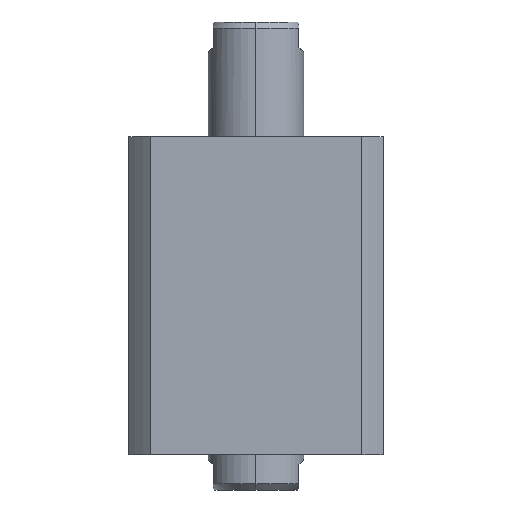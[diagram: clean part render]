
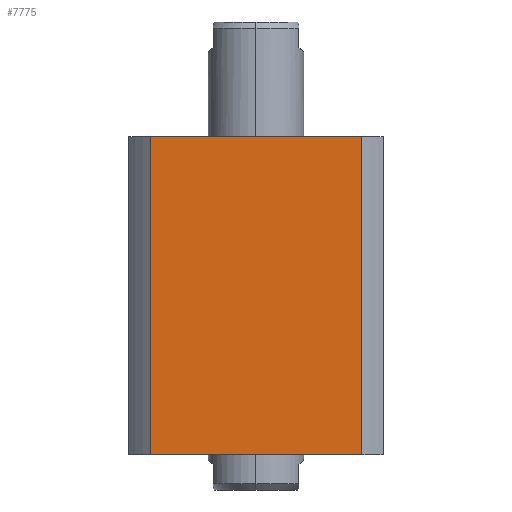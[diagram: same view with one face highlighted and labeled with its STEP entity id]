
A CAD part, left-side view. The second image highlights one B-rep face of the part: STEP entity #7775.
In plain terms, the highlighted planar face has unit normal (-1, 0, 0).
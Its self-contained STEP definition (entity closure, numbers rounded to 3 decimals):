
#808 = CARTESIAN_POINT ( 'NONE',  ( -40., 33.226, 50. ) ) ;
#1233 = VERTEX_POINT ( 'NONE', #2129 ) ;
#1383 = VECTOR ( 'NONE', #6850, 1000. ) ;
#1785 = VECTOR ( 'NONE', #7866, 1000. ) ;
#2044 = CARTESIAN_POINT ( 'NONE',  ( -40., -33.226, 50. ) ) ;
#2092 = LINE ( 'NONE', #4542, #1383 ) ;
#2129 = CARTESIAN_POINT ( 'NONE',  ( -40., 33.226, -50. ) ) ;
#2386 = LINE ( 'NONE', #4068, #1785 ) ;
#2783 = EDGE_CURVE ( 'NONE', #5598, #1233, #5922, .T. ) ;
#3271 = CARTESIAN_POINT ( 'NONE',  ( -40., -33.226, -50. ) ) ;
#3380 = AXIS2_PLACEMENT_3D ( 'NONE', #9748, #8319, #3748 ) ;
#3513 = VERTEX_POINT ( 'NONE', #2044 ) ;
#3748 = DIRECTION ( 'NONE',  ( 0., 1., 0. ) ) ;
#3752 = EDGE_LOOP ( 'NONE', ( #4631, #9806, #5439, #6384 ) ) ;
#3824 = LINE ( 'NONE', #7325, #4401 ) ;
#4068 = CARTESIAN_POINT ( 'NONE',  ( -40., -33.226, 50. ) ) ;
#4401 = VECTOR ( 'NONE', #5861, 1000. ) ;
#4542 = CARTESIAN_POINT ( 'NONE',  ( -40., 33.226, 50. ) ) ;
#4631 = ORIENTED_EDGE ( 'NONE', *, *, #7650, .T. ) ;
#5439 = ORIENTED_EDGE ( 'NONE', *, *, #7850, .F. ) ;
#5598 = VERTEX_POINT ( 'NONE', #808 ) ;
#5817 = EDGE_CURVE ( 'NONE', #3513, #6202, #2386, .T. ) ;
#5861 = DIRECTION ( 'NONE',  ( 0., -1., 0. ) ) ;
#5922 = LINE ( 'NONE', #6233, #7239 ) ;
#6021 = PLANE ( 'NONE',  #3380 ) ;
#6202 = VERTEX_POINT ( 'NONE', #3271 ) ;
#6233 = CARTESIAN_POINT ( 'NONE',  ( -40., 33.226, 50. ) ) ;
#6384 = ORIENTED_EDGE ( 'NONE', *, *, #2783, .T. ) ;
#6850 = DIRECTION ( 'NONE',  ( 0., -1., 0. ) ) ;
#6962 = DIRECTION ( 'NONE',  ( 0., 0., -1. ) ) ;
#7239 = VECTOR ( 'NONE', #6962, 1000. ) ;
#7325 = CARTESIAN_POINT ( 'NONE',  ( -40., 33.226, -50. ) ) ;
#7650 = EDGE_CURVE ( 'NONE', #1233, #6202, #3824, .T. ) ;
#7775 = ADVANCED_FACE ( 'NONE', ( #8389 ), #6021, .F. ) ;
#7850 = EDGE_CURVE ( 'NONE', #5598, #3513, #2092, .T. ) ;
#7866 = DIRECTION ( 'NONE',  ( 0., 0., -1. ) ) ;
#8319 = DIRECTION ( 'NONE',  ( 1., 0., 0. ) ) ;
#8389 = FACE_OUTER_BOUND ( 'NONE', #3752, .T. ) ;
#9748 = CARTESIAN_POINT ( 'NONE',  ( -40., 33.226, 50. ) ) ;
#9806 = ORIENTED_EDGE ( 'NONE', *, *, #5817, .F. ) ;
